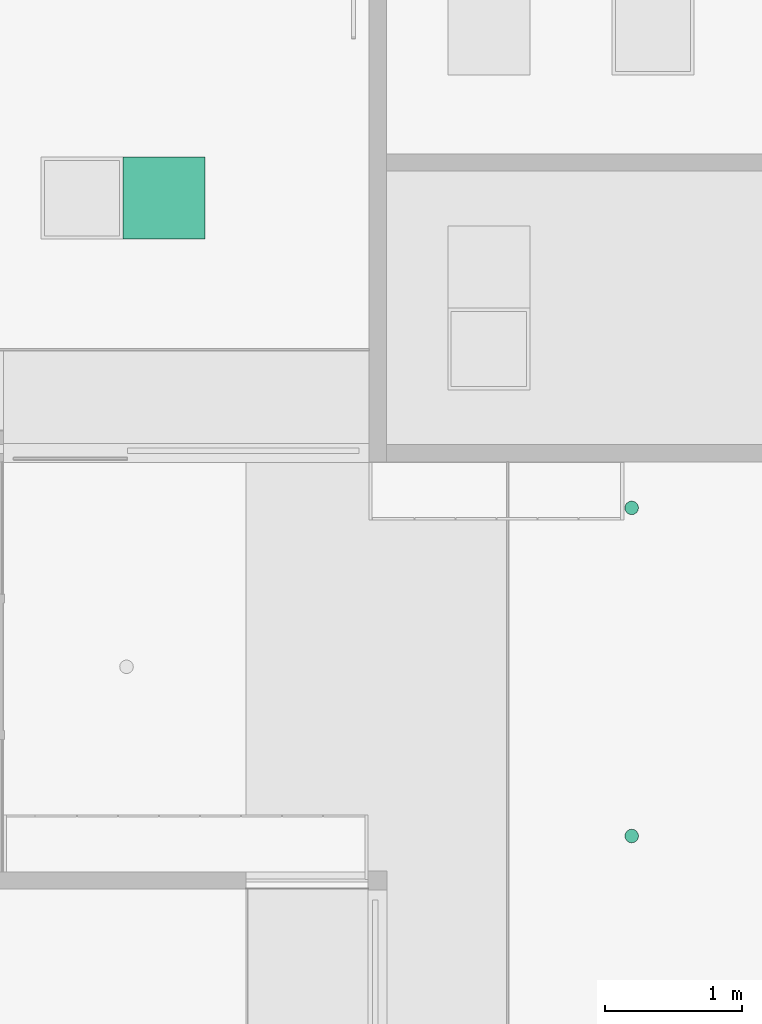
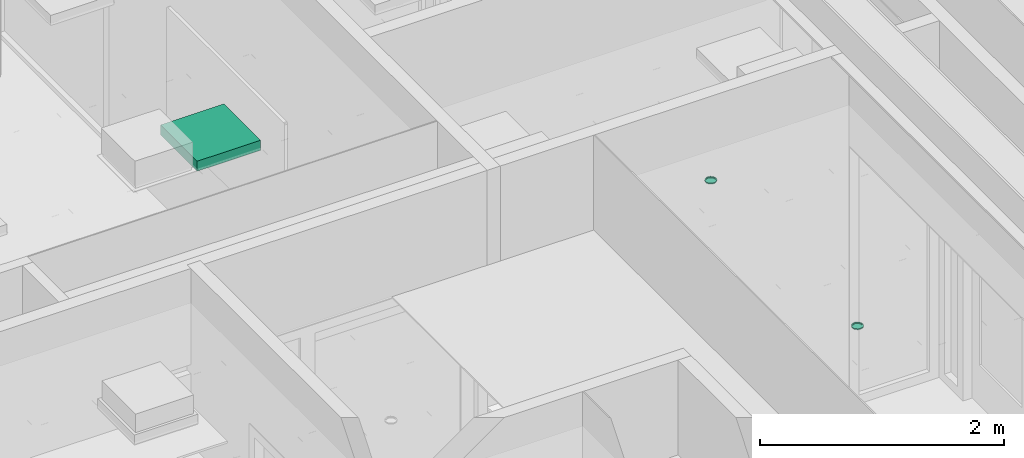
# One storey, part 277 of 347: 3 flow terminals.
"""IFC2X3 building model written with IfcOpenShell, lengths in millimetres."""

from ifc_helpers import new_model, entity, si_unit, converted_unit, derived_unit, money_unit, direction, frame, origin_with_axes, place, context, subcontext, project, spatial, open_shell, faceted_brep, surface_model, source, transform, mapped, type_object, type_shapes, element, save


model = new_model("IFC2X3")

# Units and contexts
model_context = context("Model", 3, precision=0.01, world=origin_with_axes(), true_north=direction((0.0, 1.0)))
plan_context = context("Plan", 3, precision=0.01, world=origin_with_axes(), true_north=direction((0.0, 1.0)))
body_context = subcontext(model_context, "Body", "Model", "MODEL_VIEW")
ifc_project = project(units=[si_unit("LENGTHUNIT", "METRE", prefix="MILLI"), si_unit("AREAUNIT", "SQUARE_METRE"), si_unit("VOLUMEUNIT", "CUBIC_METRE"), converted_unit("PLANEANGLEUNIT", "DEGREE", entity("IfcPlaneAngleMeasure", 0.0174532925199), si_unit("PLANEANGLEUNIT", "RADIAN"), dimensions=[0, 0, 0, 0, 0, 0, 0]), money_unit("EUR"), converted_unit("TIMEUNIT", "Year", entity("IfcTimeMeasure", 31556926.0), si_unit("TIMEUNIT", "SECOND"), dimensions=[0, 0, 1, 0, 0, 0, 0]), si_unit("MASSUNIT", "GRAM", prefix="KILO"), si_unit("THERMODYNAMICTEMPERATUREUNIT", "DEGREE_CELSIUS"), si_unit("LUMINOUSINTENSITYUNIT", "LUMEN"), si_unit("ENERGYUNIT", "JOULE", prefix="MEGA"), derived_unit("THERMALCONDUCTANCEUNIT", [(si_unit("POWERUNIT", "WATT"), 1), (si_unit("LENGTHUNIT", "METRE"), -1), (si_unit("THERMODYNAMICTEMPERATUREUNIT", "KELVIN"), -1)]), derived_unit("SPECIFICHEATCAPACITYUNIT", [(si_unit("ENERGYUNIT", "JOULE"), 1), (si_unit("MASSUNIT", "GRAM", prefix="KILO"), -1), (si_unit("THERMODYNAMICTEMPERATUREUNIT", "KELVIN"), -1)]), derived_unit("MASSDENSITYUNIT", [(si_unit("MASSUNIT", "GRAM", prefix="KILO"), 1), (si_unit("VOLUMEUNIT", "CUBIC_METRE"), -1)])], contexts=[model_context, plan_context])

# Site, building, storey
site_placement = place(None, origin_with_axes())
site = spatial("IfcSite", under=ifc_project, at=site_placement, Name="Site", CompositionType="ELEMENT")
building_placement = place(site_placement, origin_with_axes())
building = spatial("IfcBuilding", under=site, at=building_placement, Name="Naam gebouw", CompositionType="ELEMENT")
storey_placement = place(building_placement, origin_with_axes())
storey = spatial("IfcBuildingStorey", under=building, at=storey_placement, Name="begane grond", CompositionType="ELEMENT", Elevation=0.0)

# Flow terminals
lamp_type_1 = type_object("IfcLampType", Name="Spot plafond 01 25", PredefinedType="NOTDEFINED")
shared_shape_1 = source(origin_with_axes(), body_context, "Body", "SurfaceModel", [
    faceted_brep([(50.0, 0.0, -10.0), (46.1939766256, 19.1341716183, -10.0), (46.1939766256, 19.1341716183, 0.0), (50.0, 0.0, 0.0), (46.1939766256, -19.1341716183, -10.0), (35.3553390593, -35.3553390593, -10.0), (19.1341716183, -46.1939766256, -10.0), (0.0, -50.0, -10.0), (-19.1341716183, -46.1939766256, -10.0), (-35.3553390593, -35.3553390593, -10.0), (-46.1939766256, -19.1341716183, -10.0), (-50.0, 0.0, -10.0), (-46.1939766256, 19.1341716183, -10.0), (-35.3553390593, 35.3553390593, -10.0), (-19.1341716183, 46.1939766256, -10.0), (0.0, 50.0, -10.0), (19.1341716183, 46.1939766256, -10.0), (35.3553390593, 35.3553390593, -10.0), (40.0, 0.0, -10.0), (36.9551813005, 15.3073372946, -10.0), (28.2842712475, 28.2842712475, -10.0), (15.3073372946, 36.9551813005, -10.0), (0.0, 40.0, -10.0), (-15.3073372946, 36.9551813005, -10.0), (-28.2842712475, 28.2842712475, -10.0), (-36.9551813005, 15.3073372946, -10.0), (-40.0, 0.0, -10.0), (-36.9551813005, -15.3073372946, -10.0), (-28.2842712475, -28.2842712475, -10.0), (-15.3073372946, -36.9551813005, -10.0), (0.0, -40.0, -10.0), (15.3073372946, -36.9551813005, -10.0), (28.2842712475, -28.2842712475, -10.0), (36.9551813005, -15.3073372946, -10.0), (35.3553390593, 35.3553390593, 0.0), (19.1341716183, 46.1939766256, 0.0), (0.0, 50.0, 0.0), (-19.1341716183, 46.1939766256, 0.0), (-35.3553390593, 35.3553390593, 0.0), (-46.1939766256, 19.1341716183, 0.0), (-50.0, 0.0, 0.0), (-46.1939766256, -19.1341716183, 0.0), (-35.3553390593, -35.3553390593, 0.0), (-19.1341716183, -46.1939766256, 0.0), (0.0, -50.0, 0.0), (19.1341716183, -46.1939766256, 0.0), (35.3553390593, -35.3553390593, 0.0), (46.1939766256, -19.1341716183, 0.0), (40.0, 0.0, 0.0), (36.9551813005, -15.3073372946, 0.0), (28.2842712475, -28.2842712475, 0.0), (15.3073372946, -36.9551813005, 0.0), (0.0, -40.0, 0.0), (-15.3073372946, -36.9551813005, 0.0), (-28.2842712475, -28.2842712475, 0.0), (-36.9551813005, -15.3073372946, 0.0), (-40.0, 0.0, 0.0), (-36.9551813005, 15.3073372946, 0.0), (-28.2842712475, 28.2842712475, 0.0), (-15.3073372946, 36.9551813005, 0.0), (0.0, 40.0, 0.0), (15.3073372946, 36.9551813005, 0.0), (28.2842712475, 28.2842712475, 0.0), (36.9551813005, 15.3073372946, 0.0)], [[[0, 1, 2, 3]], [[0, 4, 5, 6, 7, 8, 9, 10, 11, 12, 13, 14, 15, 16, 17, 1], [18, 19, 20, 21, 22, 23, 24, 25, 26, 27, 28, 29, 30, 31, 32, 33]], [[1, 17, 34, 2]], [[3, 2, 34, 35, 36, 37, 38, 39, 40, 41, 42, 43, 44, 45, 46, 47], [48, 49, 50, 51, 52, 53, 54, 55, 56, 57, 58, 59, 60, 61, 62, 63]], [[4, 0, 3, 47]], [[5, 4, 47, 46]], [[6, 5, 46, 45]], [[7, 6, 45, 44]], [[8, 7, 44, 43]], [[9, 8, 43, 42]], [[10, 9, 42, 41]], [[11, 10, 41, 40]], [[12, 11, 40, 39]], [[13, 12, 39, 38]], [[14, 13, 38, 37]], [[15, 14, 37, 36]], [[16, 15, 36, 35]], [[17, 16, 35, 34]], [[19, 18, 48, 63]], [[20, 19, 63, 62]], [[21, 20, 62, 61]], [[22, 21, 61, 60]], [[23, 22, 60, 59]], [[24, 23, 59, 58]], [[25, 24, 58, 57]], [[26, 25, 57, 56]], [[27, 26, 56, 55]], [[28, 27, 55, 54]], [[29, 28, 54, 53]], [[30, 29, 53, 52]], [[31, 30, 52, 51]], [[32, 31, 51, 50]], [[33, 32, 50, 49]], [[18, 33, 49, 48]]]),
    surface_model("IfcShellBasedSurfaceModel", [(40.0, 0.0, -8.9), (36.9551813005, -15.3073372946, -8.9), (28.2842712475, -28.2842712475, -8.9), (15.3073372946, -36.9551813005, -8.9), (0.0, -40.0, -8.9), (-15.3073372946, -36.9551813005, -8.9), (-28.2842712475, -28.2842712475, -8.9), (-36.9551813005, -15.3073372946, -8.9), (-40.0, 0.0, -8.9), (-36.9551813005, 15.3073372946, -8.9), (-28.2842712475, 28.2842712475, -8.9), (-15.3073372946, 36.9551813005, -8.9), (0.0, 40.0, -8.9), (15.3073372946, 36.9551813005, -8.9), (28.2842712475, 28.2842712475, -8.9), (36.9551813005, 15.3073372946, -8.9)], [open_shell([[[0, 1, 2, 3, 4, 5, 6, 7, 8, 9, 10, 11, 12, 13, 14, 15]]])]),
])
type_shapes(lamp_type_1, [shared_shape_1])
for number, where, z_axis, x_axis, name in (
    (1, (33995.0, 36224.9999638, 3000.0), (0.0, 0.0, 1.0), (1.0, 0.0, 0.0), "63_Lamp-x"),
    (2, (33995.0, 38624.9999638, 3000.0), (0.0, 0.0, 1.0), (1.0, 0.0, 0.0), "63_Lamp-x"),
):
    element("IfcFlowTerminal", number, at=place(storey_placement, frame(where, z_axis=z_axis, x_axis=x_axis)), inside=storey, type_object=lamp_type_1, Name=name, ObjectType="Lamp", context=body_context, shape_type="MappedRepresentation", body=[
        mapped(shared_shape_1, transform((0.0, 0.0, 0.0))),
    ])
lamp_type_2 = type_object("IfcLampType", Name="TL plafond 25", PredefinedType="NOTDEFINED")
shared_shape_2 = source(origin_with_axes(), body_context, "Body", "SurfaceModel", [
    faceted_brep([(0.0, 0.0, -100.0), (600.0, 0.0, -100.0), (600.0, 0.0, 0.0), (0.0, 0.0, 0.0), (0.0, 600.0, -100.0), (600.0, 600.0, -100.0), (40.0, 40.0, -100.0), (560.0, 40.0, -100.0), (560.0, 560.0, -100.0), (40.0, 560.0, -100.0), (600.0, 600.0, 0.0), (0.0, 600.0, 0.0), (40.0, 40.0, 0.0), (40.0, 560.0, 0.0), (560.0, 560.0, 0.0), (560.0, 40.0, 0.0)], [[[0, 1, 2, 3]], [[0, 4, 5, 1], [6, 7, 8, 9]], [[1, 5, 10, 2]], [[3, 2, 10, 11], [12, 13, 14, 15]], [[4, 0, 3, 11]], [[5, 4, 11, 10]], [[7, 6, 12, 15]], [[8, 7, 15, 14]], [[9, 8, 14, 13]], [[6, 9, 13, 12]]]),
    faceted_brep([(40.0, 40.0, -16.3333333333), (560.0, 40.0, -16.3333333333), (560.0, 40.0, 0.0), (40.0, 40.0, 0.0), (40.0, 560.0, -16.3333333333), (560.0, 560.0, -16.3333333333), (560.0, 560.0, 0.0), (40.0, 560.0, 0.0)], [[[0, 1, 2, 3]], [[0, 4, 5, 1]], [[1, 5, 6, 2]], [[3, 2, 6, 7]], [[4, 0, 3, 7]], [[5, 4, 7, 6]]]),
    surface_model("IfcShellBasedSurfaceModel", [(559.0, 41.0, -100.0), (40.0, 41.0, -100.0), (40.0, 559.0, -100.0), (559.0, 559.0, -100.0)], [open_shell([[[0, 1, 2, 3]]])]),
    faceted_brep([(40.0, 40.0, -100.0), (560.0, 40.0, -100.0), (560.0, 40.0, -60.0), (40.0, 40.0, -60.0), (40.0, 560.0, -100.0), (560.0, 560.0, -100.0), (41.0, 41.0, -100.0), (559.0, 41.0, -100.0), (559.0, 559.0, -100.0), (41.0, 559.0, -100.0), (560.0, 560.0, -60.0), (40.0, 560.0, -60.0), (41.0, 41.0, -60.0), (41.0, 559.0, -60.0), (559.0, 559.0, -60.0), (559.0, 41.0, -60.0)], [[[0, 1, 2, 3]], [[0, 4, 5, 1], [6, 7, 8, 9]], [[1, 5, 10, 2]], [[3, 2, 10, 11], [12, 13, 14, 15]], [[4, 0, 3, 11]], [[5, 4, 11, 10]], [[7, 6, 12, 15]], [[8, 7, 15, 14]], [[9, 8, 14, 13]], [[6, 9, 13, 12]]]),
    faceted_brep([(40.0, 144.0, -48.3333333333), (40.0, 149.740251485, -47.191526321), (560.0, 149.740251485, -47.191526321), (560.0, 144.0, -48.3333333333), (40.0, 138.259748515, -47.191526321), (40.0, 133.393398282, -43.9399350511), (40.0, 130.141807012, -39.0735848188), (40.0, 129.0, -33.3333333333), (40.0, 130.141807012, -27.5930818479), (40.0, 133.393398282, -22.7267316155), (40.0, 138.259748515, -19.4751403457), (40.0, 144.0, -18.3333333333), (40.0, 149.740251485, -19.4751403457), (40.0, 154.606601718, -22.7267316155), (40.0, 157.858192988, -27.5930818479), (40.0, 159.0, -33.3333333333), (40.0, 157.858192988, -39.0735848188), (40.0, 154.606601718, -43.9399350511), (40.0, 144.0, -46.3333333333), (40.0, 148.974884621, -45.343767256), (40.0, 153.192388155, -42.5257214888), (40.0, 156.010433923, -38.3082179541), (40.0, 157.0, -33.3333333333), (40.0, 156.010433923, -28.3584487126), (40.0, 153.192388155, -24.1409451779), (40.0, 148.974884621, -21.3228994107), (40.0, 144.0, -20.3333333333), (40.0, 139.025115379, -21.3228994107), (40.0, 134.807611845, -24.1409451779), (40.0, 131.989566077, -28.3584487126), (40.0, 131.0, -33.3333333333), (40.0, 131.989566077, -38.3082179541), (40.0, 134.807611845, -42.5257214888), (40.0, 139.025115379, -45.343767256), (560.0, 154.606601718, -43.9399350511), (560.0, 157.858192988, -39.0735848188), (560.0, 159.0, -33.3333333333), (560.0, 157.858192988, -27.5930818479), (560.0, 154.606601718, -22.7267316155), (560.0, 149.740251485, -19.4751403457), (560.0, 144.0, -18.3333333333), (560.0, 138.259748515, -19.4751403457), (560.0, 133.393398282, -22.7267316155), (560.0, 130.141807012, -27.5930818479), (560.0, 129.0, -33.3333333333), (560.0, 130.141807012, -39.0735848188), (560.0, 133.393398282, -43.9399350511), (560.0, 138.259748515, -47.191526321), (560.0, 144.0, -46.3333333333), (560.0, 139.025115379, -45.343767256), (560.0, 134.807611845, -42.5257214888), (560.0, 131.989566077, -38.3082179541), (560.0, 131.0, -33.3333333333), (560.0, 131.989566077, -28.3584487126), (560.0, 134.807611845, -24.1409451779), (560.0, 139.025115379, -21.3228994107), (560.0, 144.0, -20.3333333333), (560.0, 148.974884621, -21.3228994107), (560.0, 153.192388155, -24.1409451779), (560.0, 156.010433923, -28.3584487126), (560.0, 157.0, -33.3333333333), (560.0, 156.010433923, -38.3082179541), (560.0, 153.192388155, -42.5257214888), (560.0, 148.974884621, -45.343767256)], [[[0, 1, 2, 3]], [[0, 4, 5, 6, 7, 8, 9, 10, 11, 12, 13, 14, 15, 16, 17, 1], [18, 19, 20, 21, 22, 23, 24, 25, 26, 27, 28, 29, 30, 31, 32, 33]], [[1, 17, 34, 2]], [[3, 2, 34, 35, 36, 37, 38, 39, 40, 41, 42, 43, 44, 45, 46, 47], [48, 49, 50, 51, 52, 53, 54, 55, 56, 57, 58, 59, 60, 61, 62, 63]], [[4, 0, 3, 47]], [[5, 4, 47, 46]], [[6, 5, 46, 45]], [[7, 6, 45, 44]], [[8, 7, 44, 43]], [[9, 8, 43, 42]], [[10, 9, 42, 41]], [[11, 10, 41, 40]], [[12, 11, 40, 39]], [[13, 12, 39, 38]], [[14, 13, 38, 37]], [[15, 14, 37, 36]], [[16, 15, 36, 35]], [[17, 16, 35, 34]], [[19, 18, 48, 63]], [[20, 19, 63, 62]], [[21, 20, 62, 61]], [[22, 21, 61, 60]], [[23, 22, 60, 59]], [[24, 23, 59, 58]], [[25, 24, 58, 57]], [[26, 25, 57, 56]], [[27, 26, 56, 55]], [[28, 27, 55, 54]], [[29, 28, 54, 53]], [[30, 29, 53, 52]], [[31, 30, 52, 51]], [[32, 31, 51, 50]], [[33, 32, 50, 49]], [[18, 33, 49, 48]]]),
    faceted_brep([(40.0, 248.0, -48.3333333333), (40.0, 253.740251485, -47.191526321), (560.0, 253.740251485, -47.191526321), (560.0, 248.0, -48.3333333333), (40.0, 242.259748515, -47.191526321), (40.0, 237.393398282, -43.9399350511), (40.0, 234.141807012, -39.0735848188), (40.0, 233.0, -33.3333333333), (40.0, 234.141807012, -27.5930818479), (40.0, 237.393398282, -22.7267316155), (40.0, 242.259748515, -19.4751403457), (40.0, 248.0, -18.3333333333), (40.0, 253.740251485, -19.4751403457), (40.0, 258.606601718, -22.7267316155), (40.0, 261.858192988, -27.5930818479), (40.0, 263.0, -33.3333333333), (40.0, 261.858192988, -39.0735848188), (40.0, 258.606601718, -43.9399350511), (40.0, 248.0, -46.3333333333), (40.0, 252.974884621, -45.343767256), (40.0, 257.192388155, -42.5257214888), (40.0, 260.010433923, -38.3082179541), (40.0, 261.0, -33.3333333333), (40.0, 260.010433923, -28.3584487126), (40.0, 257.192388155, -24.1409451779), (40.0, 252.974884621, -21.3228994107), (40.0, 248.0, -20.3333333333), (40.0, 243.025115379, -21.3228994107), (40.0, 238.807611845, -24.1409451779), (40.0, 235.989566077, -28.3584487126), (40.0, 235.0, -33.3333333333), (40.0, 235.989566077, -38.3082179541), (40.0, 238.807611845, -42.5257214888), (40.0, 243.025115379, -45.343767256), (560.0, 258.606601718, -43.9399350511), (560.0, 261.858192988, -39.0735848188), (560.0, 263.0, -33.3333333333), (560.0, 261.858192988, -27.5930818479), (560.0, 258.606601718, -22.7267316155), (560.0, 253.740251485, -19.4751403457), (560.0, 248.0, -18.3333333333), (560.0, 242.259748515, -19.4751403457), (560.0, 237.393398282, -22.7267316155), (560.0, 234.141807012, -27.5930818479), (560.0, 233.0, -33.3333333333), (560.0, 234.141807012, -39.0735848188), (560.0, 237.393398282, -43.9399350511), (560.0, 242.259748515, -47.191526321), (560.0, 248.0, -46.3333333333), (560.0, 243.025115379, -45.343767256), (560.0, 238.807611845, -42.5257214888), (560.0, 235.989566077, -38.3082179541), (560.0, 235.0, -33.3333333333), (560.0, 235.989566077, -28.3584487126), (560.0, 238.807611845, -24.1409451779), (560.0, 243.025115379, -21.3228994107), (560.0, 248.0, -20.3333333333), (560.0, 252.974884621, -21.3228994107), (560.0, 257.192388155, -24.1409451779), (560.0, 260.010433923, -28.3584487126), (560.0, 261.0, -33.3333333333), (560.0, 260.010433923, -38.3082179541), (560.0, 257.192388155, -42.5257214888), (560.0, 252.974884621, -45.343767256)], [[[0, 1, 2, 3]], [[0, 4, 5, 6, 7, 8, 9, 10, 11, 12, 13, 14, 15, 16, 17, 1], [18, 19, 20, 21, 22, 23, 24, 25, 26, 27, 28, 29, 30, 31, 32, 33]], [[1, 17, 34, 2]], [[3, 2, 34, 35, 36, 37, 38, 39, 40, 41, 42, 43, 44, 45, 46, 47], [48, 49, 50, 51, 52, 53, 54, 55, 56, 57, 58, 59, 60, 61, 62, 63]], [[4, 0, 3, 47]], [[5, 4, 47, 46]], [[6, 5, 46, 45]], [[7, 6, 45, 44]], [[8, 7, 44, 43]], [[9, 8, 43, 42]], [[10, 9, 42, 41]], [[11, 10, 41, 40]], [[12, 11, 40, 39]], [[13, 12, 39, 38]], [[14, 13, 38, 37]], [[15, 14, 37, 36]], [[16, 15, 36, 35]], [[17, 16, 35, 34]], [[19, 18, 48, 63]], [[20, 19, 63, 62]], [[21, 20, 62, 61]], [[22, 21, 61, 60]], [[23, 22, 60, 59]], [[24, 23, 59, 58]], [[25, 24, 58, 57]], [[26, 25, 57, 56]], [[27, 26, 56, 55]], [[28, 27, 55, 54]], [[29, 28, 54, 53]], [[30, 29, 53, 52]], [[31, 30, 52, 51]], [[32, 31, 51, 50]], [[33, 32, 50, 49]], [[18, 33, 49, 48]]]),
    faceted_brep([(40.0, 352.0, -48.3333333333), (40.0, 357.740251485, -47.191526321), (560.0, 357.740251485, -47.191526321), (560.0, 352.0, -48.3333333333), (40.0, 346.259748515, -47.191526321), (40.0, 341.393398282, -43.9399350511), (40.0, 338.141807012, -39.0735848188), (40.0, 337.0, -33.3333333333), (40.0, 338.141807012, -27.5930818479), (40.0, 341.393398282, -22.7267316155), (40.0, 346.259748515, -19.4751403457), (40.0, 352.0, -18.3333333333), (40.0, 357.740251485, -19.4751403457), (40.0, 362.606601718, -22.7267316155), (40.0, 365.858192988, -27.5930818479), (40.0, 367.0, -33.3333333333), (40.0, 365.858192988, -39.0735848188), (40.0, 362.606601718, -43.9399350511), (40.0, 352.0, -46.3333333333), (40.0, 356.974884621, -45.343767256), (40.0, 361.192388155, -42.5257214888), (40.0, 364.010433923, -38.3082179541), (40.0, 365.0, -33.3333333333), (40.0, 364.010433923, -28.3584487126), (40.0, 361.192388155, -24.1409451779), (40.0, 356.974884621, -21.3228994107), (40.0, 352.0, -20.3333333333), (40.0, 347.025115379, -21.3228994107), (40.0, 342.807611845, -24.1409451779), (40.0, 339.989566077, -28.3584487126), (40.0, 339.0, -33.3333333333), (40.0, 339.989566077, -38.3082179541), (40.0, 342.807611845, -42.5257214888), (40.0, 347.025115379, -45.343767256), (560.0, 362.606601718, -43.9399350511), (560.0, 365.858192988, -39.0735848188), (560.0, 367.0, -33.3333333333), (560.0, 365.858192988, -27.5930818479), (560.0, 362.606601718, -22.7267316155), (560.0, 357.740251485, -19.4751403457), (560.0, 352.0, -18.3333333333), (560.0, 346.259748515, -19.4751403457), (560.0, 341.393398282, -22.7267316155), (560.0, 338.141807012, -27.5930818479), (560.0, 337.0, -33.3333333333), (560.0, 338.141807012, -39.0735848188), (560.0, 341.393398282, -43.9399350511), (560.0, 346.259748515, -47.191526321), (560.0, 352.0, -46.3333333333), (560.0, 347.025115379, -45.343767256), (560.0, 342.807611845, -42.5257214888), (560.0, 339.989566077, -38.3082179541), (560.0, 339.0, -33.3333333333), (560.0, 339.989566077, -28.3584487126), (560.0, 342.807611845, -24.1409451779), (560.0, 347.025115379, -21.3228994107), (560.0, 352.0, -20.3333333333), (560.0, 356.974884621, -21.3228994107), (560.0, 361.192388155, -24.1409451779), (560.0, 364.010433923, -28.3584487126), (560.0, 365.0, -33.3333333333), (560.0, 364.010433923, -38.3082179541), (560.0, 361.192388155, -42.5257214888), (560.0, 356.974884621, -45.343767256)], [[[0, 1, 2, 3]], [[0, 4, 5, 6, 7, 8, 9, 10, 11, 12, 13, 14, 15, 16, 17, 1], [18, 19, 20, 21, 22, 23, 24, 25, 26, 27, 28, 29, 30, 31, 32, 33]], [[1, 17, 34, 2]], [[3, 2, 34, 35, 36, 37, 38, 39, 40, 41, 42, 43, 44, 45, 46, 47], [48, 49, 50, 51, 52, 53, 54, 55, 56, 57, 58, 59, 60, 61, 62, 63]], [[4, 0, 3, 47]], [[5, 4, 47, 46]], [[6, 5, 46, 45]], [[7, 6, 45, 44]], [[8, 7, 44, 43]], [[9, 8, 43, 42]], [[10, 9, 42, 41]], [[11, 10, 41, 40]], [[12, 11, 40, 39]], [[13, 12, 39, 38]], [[14, 13, 38, 37]], [[15, 14, 37, 36]], [[16, 15, 36, 35]], [[17, 16, 35, 34]], [[19, 18, 48, 63]], [[20, 19, 63, 62]], [[21, 20, 62, 61]], [[22, 21, 61, 60]], [[23, 22, 60, 59]], [[24, 23, 59, 58]], [[25, 24, 58, 57]], [[26, 25, 57, 56]], [[27, 26, 56, 55]], [[28, 27, 55, 54]], [[29, 28, 54, 53]], [[30, 29, 53, 52]], [[31, 30, 52, 51]], [[32, 31, 51, 50]], [[33, 32, 50, 49]], [[18, 33, 49, 48]]]),
    faceted_brep([(40.0, 456.0, -48.3333333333), (40.0, 461.740251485, -47.191526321), (560.0, 461.740251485, -47.191526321), (560.0, 456.0, -48.3333333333), (40.0, 450.259748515, -47.191526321), (40.0, 445.393398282, -43.9399350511), (40.0, 442.141807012, -39.0735848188), (40.0, 441.0, -33.3333333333), (40.0, 442.141807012, -27.5930818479), (40.0, 445.393398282, -22.7267316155), (40.0, 450.259748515, -19.4751403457), (40.0, 456.0, -18.3333333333), (40.0, 461.740251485, -19.4751403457), (40.0, 466.606601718, -22.7267316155), (40.0, 469.858192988, -27.5930818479), (40.0, 471.0, -33.3333333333), (40.0, 469.858192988, -39.0735848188), (40.0, 466.606601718, -43.9399350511), (40.0, 456.0, -46.3333333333), (40.0, 460.974884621, -45.343767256), (40.0, 465.192388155, -42.5257214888), (40.0, 468.010433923, -38.3082179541), (40.0, 469.0, -33.3333333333), (40.0, 468.010433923, -28.3584487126), (40.0, 465.192388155, -24.1409451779), (40.0, 460.974884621, -21.3228994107), (40.0, 456.0, -20.3333333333), (40.0, 451.025115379, -21.3228994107), (40.0, 446.807611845, -24.1409451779), (40.0, 443.989566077, -28.3584487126), (40.0, 443.0, -33.3333333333), (40.0, 443.989566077, -38.3082179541), (40.0, 446.807611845, -42.5257214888), (40.0, 451.025115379, -45.343767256), (560.0, 466.606601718, -43.9399350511), (560.0, 469.858192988, -39.0735848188), (560.0, 471.0, -33.3333333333), (560.0, 469.858192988, -27.5930818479), (560.0, 466.606601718, -22.7267316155), (560.0, 461.740251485, -19.4751403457), (560.0, 456.0, -18.3333333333), (560.0, 450.259748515, -19.4751403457), (560.0, 445.393398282, -22.7267316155), (560.0, 442.141807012, -27.5930818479), (560.0, 441.0, -33.3333333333), (560.0, 442.141807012, -39.0735848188), (560.0, 445.393398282, -43.9399350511), (560.0, 450.259748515, -47.191526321), (560.0, 456.0, -46.3333333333), (560.0, 451.025115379, -45.343767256), (560.0, 446.807611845, -42.5257214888), (560.0, 443.989566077, -38.3082179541), (560.0, 443.0, -33.3333333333), (560.0, 443.989566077, -28.3584487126), (560.0, 446.807611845, -24.1409451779), (560.0, 451.025115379, -21.3228994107), (560.0, 456.0, -20.3333333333), (560.0, 460.974884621, -21.3228994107), (560.0, 465.192388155, -24.1409451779), (560.0, 468.010433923, -28.3584487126), (560.0, 469.0, -33.3333333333), (560.0, 468.010433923, -38.3082179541), (560.0, 465.192388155, -42.5257214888), (560.0, 460.974884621, -45.343767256)], [[[0, 1, 2, 3]], [[0, 4, 5, 6, 7, 8, 9, 10, 11, 12, 13, 14, 15, 16, 17, 1], [18, 19, 20, 21, 22, 23, 24, 25, 26, 27, 28, 29, 30, 31, 32, 33]], [[1, 17, 34, 2]], [[3, 2, 34, 35, 36, 37, 38, 39, 40, 41, 42, 43, 44, 45, 46, 47], [48, 49, 50, 51, 52, 53, 54, 55, 56, 57, 58, 59, 60, 61, 62, 63]], [[4, 0, 3, 47]], [[5, 4, 47, 46]], [[6, 5, 46, 45]], [[7, 6, 45, 44]], [[8, 7, 44, 43]], [[9, 8, 43, 42]], [[10, 9, 42, 41]], [[11, 10, 41, 40]], [[12, 11, 40, 39]], [[13, 12, 39, 38]], [[14, 13, 38, 37]], [[15, 14, 37, 36]], [[16, 15, 36, 35]], [[17, 16, 35, 34]], [[19, 18, 48, 63]], [[20, 19, 63, 62]], [[21, 20, 62, 61]], [[22, 21, 61, 60]], [[23, 22, 60, 59]], [[24, 23, 59, 58]], [[25, 24, 58, 57]], [[26, 25, 57, 56]], [[27, 26, 56, 55]], [[28, 27, 55, 54]], [[29, 28, 54, 53]], [[30, 29, 53, 52]], [[31, 30, 52, 51]], [[32, 31, 51, 50]], [[33, 32, 50, 49]], [[18, 33, 49, 48]]]),
])
type_shapes(lamp_type_2, [shared_shape_2])
flow_terminal_placement = place(storey_placement, frame((30275.0000157, 40590.5, 3295.0), z_axis=(0.0, 0.0, 1.0), x_axis=(1.0, 0.0, 0.0)))
element("IfcFlowTerminal", 3, at=flow_terminal_placement, inside=storey, type_object=lamp_type_2, Name="63_Lamp-x", ObjectType="Lamp", context=body_context, shape_type="MappedRepresentation", body=[
    mapped(shared_shape_2, transform((0.0, 0.0, 0.0))),
])

save(model, "model.ifc")
